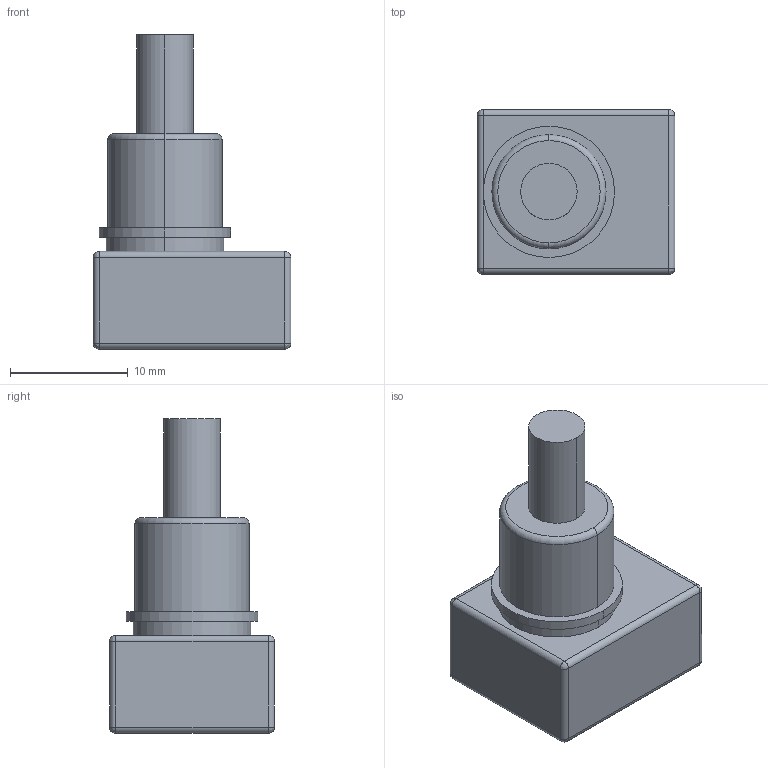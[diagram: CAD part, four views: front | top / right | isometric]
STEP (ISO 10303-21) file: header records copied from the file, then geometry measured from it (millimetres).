
FILE_DESCRIPTION (( 'STEP AP214' ), '1' );
FILE_NAME ('SPED210200.STEP', '2009-10-23T06:02:09', ( '' ), ( '' ), 'SwSTEP 2.0', 'SolidWorks 2007', '' );
FILE_SCHEMA (( 'AUTOMOTIVE_DESIGN' ));
Length unit declared in the file: millimetre
Products named in the file (1): SPED210200
Bounding box: 16.8 x 14 x 26.7 mm (x, y, z)
Volume: 2820.4 mm3; surface area: 1532.8 mm2
Topology: 1 solids, 1 shells, 67 faces, 144 edges, 78 vertices
Faces by surface type: plane 37, cylinder 20, bspline 8, torus 2
Entity records: 2558 total; most frequent: CARTESIAN_POINT 402, DIRECTION 300, ORIENTED_EDGE 272, EDGE_CURVE 136, AXIS2_PLACEMENT_3D 104, VECTOR 92, LINE 92, VERTEX_POINT 78
